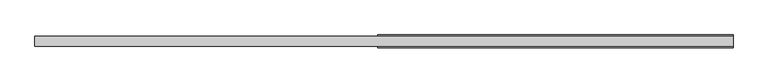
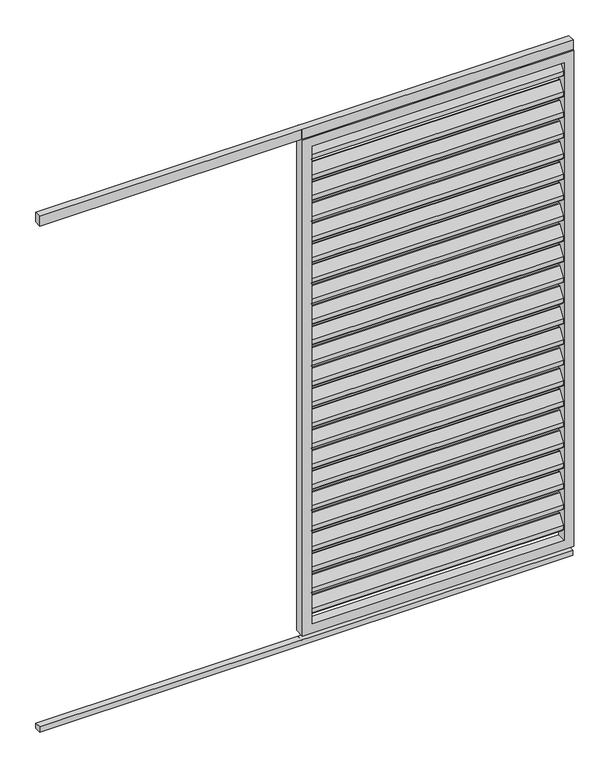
"""IFC4 building model written with IfcOpenShell, lengths in millimetres: proxy geometry, Renson_Camargue_Loggia_Paro_Aluminium : Renson_Camargue_Loggia_Paro_Aluminium."""

from ifc_helpers import new_model, si_unit, point, frame, frame_2d, origin, origin_with_axes, place, context, project, spatial, polyline, circle_curve, trimmed, segment, composite_curve, outline, extrude, source, transform, mapped, element, save


def generic_models_75aa1dad(model_context):
    return source(origin(), model_context, "Body", "SweptSolid", [
        extrude(outline(composite_curve([segment(trimmed(circle_curve(frame_2d((12.6675921, 2162.6587719)), 3.0), [point((10.1515804, 2164.292689))], [point((15.6675921, 2162.6587719))], False, "CARTESIAN"), True, "CONTINUOUS"), segment(polyline([(15.6675921, 2162.6587719), (15.6675921, 2144.2979873)]), True, "CONTINUOUS"), segment(trimmed(circle_curve(frame_2d((12.6675921, 2144.2979873)), 3.0), [point((15.6675921, 2144.2979873))], [point((15.1836038, 2142.6640702))], False, "CARTESIAN"), True, "CONTINUOUS"), segment(polyline([(15.1836038, 2142.6640702), (-8.8163962, 2105.707311)]), True, "CONTINUOUS"), segment(trimmed(circle_curve(frame_2d((-11.3324079, 2107.3412281)), 3.0), [point((-8.8163962, 2105.707311))], [point((-14.3324079, 2107.3412281))], False, "CARTESIAN"), True, "CONTINUOUS"), segment(polyline([(-14.3324079, 2107.3412281), (-14.3324079, 2126.5906532), (10.1515804, 2164.292689)]), True, "CONTINUOUS")], self_intersect=False)), frame((-520.0, 0.0, 0.0), z_axis=(1.0, 0.0, 0.0), x_axis=(0.0, 1.0, 0.0)), (0.0, 0.0, 1.0), 1040.0),
        extrude(outline(composite_curve([segment(trimmed(circle_curve(frame_2d((12.6675921, 2072.6587719)), 3.0), [point((10.1515804, 2074.292689))], [point((15.6675921, 2072.6587719))], False, "CARTESIAN"), True, "CONTINUOUS"), segment(polyline([(15.6675921, 2072.6587719), (15.6675921, 2054.2979873)]), True, "CONTINUOUS"), segment(trimmed(circle_curve(frame_2d((12.6675921, 2054.2979873)), 3.0), [point((15.6675921, 2054.2979873))], [point((15.1836038, 2052.6640702))], False, "CARTESIAN"), True, "CONTINUOUS"), segment(polyline([(15.1836038, 2052.6640702), (-8.8163962, 2015.707311)]), True, "CONTINUOUS"), segment(trimmed(circle_curve(frame_2d((-11.3324079, 2017.3412281)), 3.0), [point((-8.8163962, 2015.707311))], [point((-14.3324079, 2017.3412281))], False, "CARTESIAN"), True, "CONTINUOUS"), segment(polyline([(-14.3324079, 2017.3412281), (-14.3324079, 2036.5906532), (10.1515804, 2074.292689)]), True, "CONTINUOUS")], self_intersect=False)), frame((-520.0, 0.0, 0.0), z_axis=(1.0, 0.0, 0.0), x_axis=(0.0, 1.0, 0.0)), (0.0, 0.0, 1.0), 1040.0),
        extrude(outline(composite_curve([segment(trimmed(circle_curve(frame_2d((12.6675921, 1982.6587719)), 3.0), [point((10.1515804, 1984.292689))], [point((15.6675921, 1982.6587719))], False, "CARTESIAN"), True, "CONTINUOUS"), segment(polyline([(15.6675921, 1982.6587719), (15.6675921, 1964.2979873)]), True, "CONTINUOUS"), segment(trimmed(circle_curve(frame_2d((12.6675921, 1964.2979873)), 3.0), [point((15.6675921, 1964.2979873))], [point((15.1836038, 1962.6640702))], False, "CARTESIAN"), True, "CONTINUOUS"), segment(polyline([(15.1836038, 1962.6640702), (-8.8163962, 1925.707311)]), True, "CONTINUOUS"), segment(trimmed(circle_curve(frame_2d((-11.3324079, 1927.3412281)), 3.0), [point((-8.8163962, 1925.707311))], [point((-14.3324079, 1927.3412281))], False, "CARTESIAN"), True, "CONTINUOUS"), segment(polyline([(-14.3324079, 1927.3412281), (-14.3324079, 1946.5906532), (10.1515804, 1984.292689)]), True, "CONTINUOUS")], self_intersect=False)), frame((-520.0, 0.0, 0.0), z_axis=(1.0, 0.0, 0.0), x_axis=(0.0, 1.0, 0.0)), (0.0, 0.0, 1.0), 1040.0),
        extrude(outline(composite_curve([segment(trimmed(circle_curve(frame_2d((12.6675921, 1892.6587719)), 3.0), [point((10.1515804, 1894.292689))], [point((15.6675921, 1892.6587719))], False, "CARTESIAN"), True, "CONTINUOUS"), segment(polyline([(15.6675921, 1892.6587719), (15.6675921, 1874.2979873)]), True, "CONTINUOUS"), segment(trimmed(circle_curve(frame_2d((12.6675921, 1874.2979873)), 3.0), [point((15.6675921, 1874.2979873))], [point((15.1836038, 1872.6640702))], False, "CARTESIAN"), True, "CONTINUOUS"), segment(polyline([(15.1836038, 1872.6640702), (-8.8163962, 1835.707311)]), True, "CONTINUOUS"), segment(trimmed(circle_curve(frame_2d((-11.3324079, 1837.3412281)), 3.0), [point((-8.8163962, 1835.707311))], [point((-14.3324079, 1837.3412281))], False, "CARTESIAN"), True, "CONTINUOUS"), segment(polyline([(-14.3324079, 1837.3412281), (-14.3324079, 1856.5906532), (10.1515804, 1894.292689)]), True, "CONTINUOUS")], self_intersect=False)), frame((-520.0, 0.0, 0.0), z_axis=(1.0, 0.0, 0.0), x_axis=(0.0, 1.0, 0.0)), (0.0, 0.0, 1.0), 1040.0),
        extrude(outline(composite_curve([segment(trimmed(circle_curve(frame_2d((12.6675921, 1802.6587719)), 3.0), [point((10.1515804, 1804.292689))], [point((15.6675921, 1802.6587719))], False, "CARTESIAN"), True, "CONTINUOUS"), segment(polyline([(15.6675921, 1802.6587719), (15.6675921, 1784.2979873)]), True, "CONTINUOUS"), segment(trimmed(circle_curve(frame_2d((12.6675921, 1784.2979873)), 3.0), [point((15.6675921, 1784.2979873))], [point((15.1836038, 1782.6640702))], False, "CARTESIAN"), True, "CONTINUOUS"), segment(polyline([(15.1836038, 1782.6640702), (-8.8163962, 1745.707311)]), True, "CONTINUOUS"), segment(trimmed(circle_curve(frame_2d((-11.3324079, 1747.3412281)), 3.0), [point((-8.8163962, 1745.707311))], [point((-14.3324079, 1747.3412281))], False, "CARTESIAN"), True, "CONTINUOUS"), segment(polyline([(-14.3324079, 1747.3412281), (-14.3324079, 1766.5906532), (10.1515804, 1804.292689)]), True, "CONTINUOUS")], self_intersect=False)), frame((-520.0, 0.0, 0.0), z_axis=(1.0, 0.0, 0.0), x_axis=(0.0, 1.0, 0.0)), (0.0, 0.0, 1.0), 1040.0),
        extrude(outline(composite_curve([segment(trimmed(circle_curve(frame_2d((12.6675921, 1712.6587719)), 3.0), [point((10.1515804, 1714.292689))], [point((15.6675921, 1712.6587719))], False, "CARTESIAN"), True, "CONTINUOUS"), segment(polyline([(15.6675921, 1712.6587719), (15.6675921, 1694.2979873)]), True, "CONTINUOUS"), segment(trimmed(circle_curve(frame_2d((12.6675921, 1694.2979873)), 3.0), [point((15.6675921, 1694.2979873))], [point((15.1836038, 1692.6640702))], False, "CARTESIAN"), True, "CONTINUOUS"), segment(polyline([(15.1836038, 1692.6640702), (-8.8163962, 1655.707311)]), True, "CONTINUOUS"), segment(trimmed(circle_curve(frame_2d((-11.3324079, 1657.3412281)), 3.0), [point((-8.8163962, 1655.707311))], [point((-14.3324079, 1657.3412281))], False, "CARTESIAN"), True, "CONTINUOUS"), segment(polyline([(-14.3324079, 1657.3412281), (-14.3324079, 1676.5906532), (10.1515804, 1714.292689)]), True, "CONTINUOUS")], self_intersect=False)), frame((-520.0, 0.0, 0.0), z_axis=(1.0, 0.0, 0.0), x_axis=(0.0, 1.0, 0.0)), (0.0, 0.0, 1.0), 1040.0),
        extrude(outline(composite_curve([segment(trimmed(circle_curve(frame_2d((12.6675921, 1622.6587719)), 3.0), [point((10.1515804, 1624.292689))], [point((15.6675921, 1622.6587719))], False, "CARTESIAN"), True, "CONTINUOUS"), segment(polyline([(15.6675921, 1622.6587719), (15.6675921, 1604.2979873)]), True, "CONTINUOUS"), segment(trimmed(circle_curve(frame_2d((12.6675921, 1604.2979873)), 3.0), [point((15.6675921, 1604.2979873))], [point((15.1836038, 1602.6640702))], False, "CARTESIAN"), True, "CONTINUOUS"), segment(polyline([(15.1836038, 1602.6640702), (-8.8163962, 1565.707311)]), True, "CONTINUOUS"), segment(trimmed(circle_curve(frame_2d((-11.3324079, 1567.3412281)), 3.0), [point((-8.8163962, 1565.707311))], [point((-14.3324079, 1567.3412281))], False, "CARTESIAN"), True, "CONTINUOUS"), segment(polyline([(-14.3324079, 1567.3412281), (-14.3324079, 1586.5906532), (10.1515804, 1624.292689)]), True, "CONTINUOUS")], self_intersect=False)), frame((-520.0, 0.0, 0.0), z_axis=(1.0, 0.0, 0.0), x_axis=(0.0, 1.0, 0.0)), (0.0, 0.0, 1.0), 1040.0),
        extrude(outline(composite_curve([segment(trimmed(circle_curve(frame_2d((12.6675921, 1532.6587719)), 3.0), [point((10.1515804, 1534.292689))], [point((15.6675921, 1532.6587719))], False, "CARTESIAN"), True, "CONTINUOUS"), segment(polyline([(15.6675921, 1532.6587719), (15.6675921, 1514.2979873)]), True, "CONTINUOUS"), segment(trimmed(circle_curve(frame_2d((12.6675921, 1514.2979873)), 3.0), [point((15.6675921, 1514.2979873))], [point((15.1836038, 1512.6640702))], False, "CARTESIAN"), True, "CONTINUOUS"), segment(polyline([(15.1836038, 1512.6640702), (-8.8163962, 1475.707311)]), True, "CONTINUOUS"), segment(trimmed(circle_curve(frame_2d((-11.3324079, 1477.3412281)), 3.0), [point((-8.8163962, 1475.707311))], [point((-14.3324079, 1477.3412281))], False, "CARTESIAN"), True, "CONTINUOUS"), segment(polyline([(-14.3324079, 1477.3412281), (-14.3324079, 1496.5906532), (10.1515804, 1534.292689)]), True, "CONTINUOUS")], self_intersect=False)), frame((-520.0, 0.0, 0.0), z_axis=(1.0, 0.0, 0.0), x_axis=(0.0, 1.0, 0.0)), (0.0, 0.0, 1.0), 1040.0),
        extrude(outline(composite_curve([segment(trimmed(circle_curve(frame_2d((12.6675921, 1442.6587719)), 3.0), [point((10.1515804, 1444.292689))], [point((15.6675921, 1442.6587719))], False, "CARTESIAN"), True, "CONTINUOUS"), segment(polyline([(15.6675921, 1442.6587719), (15.6675921, 1424.2979873)]), True, "CONTINUOUS"), segment(trimmed(circle_curve(frame_2d((12.6675921, 1424.2979873)), 3.0), [point((15.6675921, 1424.2979873))], [point((15.1836038, 1422.6640702))], False, "CARTESIAN"), True, "CONTINUOUS"), segment(polyline([(15.1836038, 1422.6640702), (-8.8163962, 1385.707311)]), True, "CONTINUOUS"), segment(trimmed(circle_curve(frame_2d((-11.3324079, 1387.3412281)), 3.0), [point((-8.8163962, 1385.707311))], [point((-14.3324079, 1387.3412281))], False, "CARTESIAN"), True, "CONTINUOUS"), segment(polyline([(-14.3324079, 1387.3412281), (-14.3324079, 1406.5906532), (10.1515804, 1444.292689)]), True, "CONTINUOUS")], self_intersect=False)), frame((-520.0, 0.0, 0.0), z_axis=(1.0, 0.0, 0.0), x_axis=(0.0, 1.0, 0.0)), (0.0, 0.0, 1.0), 1040.0),
        extrude(outline(composite_curve([segment(trimmed(circle_curve(frame_2d((12.6675921, 1352.6587719)), 3.0), [point((10.1515804, 1354.292689))], [point((15.6675921, 1352.6587719))], False, "CARTESIAN"), True, "CONTINUOUS"), segment(polyline([(15.6675921, 1352.6587719), (15.6675921, 1334.2979873)]), True, "CONTINUOUS"), segment(trimmed(circle_curve(frame_2d((12.6675921, 1334.2979873)), 3.0), [point((15.6675921, 1334.2979873))], [point((15.1836038, 1332.6640702))], False, "CARTESIAN"), True, "CONTINUOUS"), segment(polyline([(15.1836038, 1332.6640702), (-8.8163962, 1295.707311)]), True, "CONTINUOUS"), segment(trimmed(circle_curve(frame_2d((-11.3324079, 1297.3412281)), 3.0), [point((-8.8163962, 1295.707311))], [point((-14.3324079, 1297.3412281))], False, "CARTESIAN"), True, "CONTINUOUS"), segment(polyline([(-14.3324079, 1297.3412281), (-14.3324079, 1316.5906532), (10.1515804, 1354.292689)]), True, "CONTINUOUS")], self_intersect=False)), frame((-520.0, 0.0, 0.0), z_axis=(1.0, 0.0, 0.0), x_axis=(0.0, 1.0, 0.0)), (0.0, 0.0, 1.0), 1040.0),
        extrude(outline(composite_curve([segment(trimmed(circle_curve(frame_2d((12.6675921, 1262.6587719)), 3.0), [point((10.1515804, 1264.292689))], [point((15.6675921, 1262.6587719))], False, "CARTESIAN"), True, "CONTINUOUS"), segment(polyline([(15.6675921, 1262.6587719), (15.6675921, 1244.2979873)]), True, "CONTINUOUS"), segment(trimmed(circle_curve(frame_2d((12.6675921, 1244.2979873)), 3.0), [point((15.6675921, 1244.2979873))], [point((15.1836038, 1242.6640702))], False, "CARTESIAN"), True, "CONTINUOUS"), segment(polyline([(15.1836038, 1242.6640702), (-8.8163962, 1205.707311)]), True, "CONTINUOUS"), segment(trimmed(circle_curve(frame_2d((-11.3324079, 1207.3412281)), 3.0), [point((-8.8163962, 1205.707311))], [point((-14.3324079, 1207.3412281))], False, "CARTESIAN"), True, "CONTINUOUS"), segment(polyline([(-14.3324079, 1207.3412281), (-14.3324079, 1226.5906532), (10.1515804, 1264.292689)]), True, "CONTINUOUS")], self_intersect=False)), frame((-520.0, 0.0, 0.0), z_axis=(1.0, 0.0, 0.0), x_axis=(0.0, 1.0, 0.0)), (0.0, 0.0, 1.0), 1040.0),
        extrude(outline(composite_curve([segment(trimmed(circle_curve(frame_2d((12.6675921, 1172.6587719)), 3.0), [point((10.1515804, 1174.292689))], [point((15.6675921, 1172.6587719))], False, "CARTESIAN"), True, "CONTINUOUS"), segment(polyline([(15.6675921, 1172.6587719), (15.6675921, 1154.2979873)]), True, "CONTINUOUS"), segment(trimmed(circle_curve(frame_2d((12.6675921, 1154.2979873)), 3.0), [point((15.6675921, 1154.2979873))], [point((15.1836038, 1152.6640702))], False, "CARTESIAN"), True, "CONTINUOUS"), segment(polyline([(15.1836038, 1152.6640702), (-8.8163962, 1115.707311)]), True, "CONTINUOUS"), segment(trimmed(circle_curve(frame_2d((-11.3324079, 1117.3412281)), 3.0), [point((-8.8163962, 1115.707311))], [point((-14.3324079, 1117.3412281))], False, "CARTESIAN"), True, "CONTINUOUS"), segment(polyline([(-14.3324079, 1117.3412281), (-14.3324079, 1136.5906532), (10.1515804, 1174.292689)]), True, "CONTINUOUS")], self_intersect=False)), frame((-520.0, 0.0, 0.0), z_axis=(1.0, 0.0, 0.0), x_axis=(0.0, 1.0, 0.0)), (0.0, 0.0, 1.0), 1040.0),
        extrude(outline(composite_curve([segment(trimmed(circle_curve(frame_2d((12.6675921, 1082.6587719)), 3.0), [point((10.1515804, 1084.292689))], [point((15.6675921, 1082.6587719))], False, "CARTESIAN"), True, "CONTINUOUS"), segment(polyline([(15.6675921, 1082.6587719), (15.6675921, 1064.2979873)]), True, "CONTINUOUS"), segment(trimmed(circle_curve(frame_2d((12.6675921, 1064.2979873)), 3.0), [point((15.6675921, 1064.2979873))], [point((15.1836038, 1062.6640702))], False, "CARTESIAN"), True, "CONTINUOUS"), segment(polyline([(15.1836038, 1062.6640702), (-8.8163962, 1025.707311)]), True, "CONTINUOUS"), segment(trimmed(circle_curve(frame_2d((-11.3324079, 1027.3412281)), 3.0), [point((-8.8163962, 1025.707311))], [point((-14.3324079, 1027.3412281))], False, "CARTESIAN"), True, "CONTINUOUS"), segment(polyline([(-14.3324079, 1027.3412281), (-14.3324079, 1046.5906532), (10.1515804, 1084.292689)]), True, "CONTINUOUS")], self_intersect=False)), frame((-520.0, 0.0, 0.0), z_axis=(1.0, 0.0, 0.0), x_axis=(0.0, 1.0, 0.0)), (0.0, 0.0, 1.0), 1040.0),
        extrude(outline(composite_curve([segment(trimmed(circle_curve(frame_2d((12.6675921, 992.6587719)), 3.0), [point((10.1515804, 994.292689))], [point((15.6675921, 992.6587719))], False, "CARTESIAN"), True, "CONTINUOUS"), segment(polyline([(15.6675921, 992.6587719), (15.6675921, 974.2979873)]), True, "CONTINUOUS"), segment(trimmed(circle_curve(frame_2d((12.6675921, 974.2979873)), 3.0), [point((15.6675921, 974.2979873))], [point((15.1836038, 972.6640702))], False, "CARTESIAN"), True, "CONTINUOUS"), segment(polyline([(15.1836038, 972.6640702), (-8.8163962, 935.707311)]), True, "CONTINUOUS"), segment(trimmed(circle_curve(frame_2d((-11.3324079, 937.3412281)), 3.0), [point((-8.8163962, 935.707311))], [point((-14.3324079, 937.3412281))], False, "CARTESIAN"), True, "CONTINUOUS"), segment(polyline([(-14.3324079, 937.3412281), (-14.3324079, 956.5906532), (10.1515804, 994.292689)]), True, "CONTINUOUS")], self_intersect=False)), frame((-520.0, 0.0, 0.0), z_axis=(1.0, 0.0, 0.0), x_axis=(0.0, 1.0, 0.0)), (0.0, 0.0, 1.0), 1040.0),
        extrude(outline(composite_curve([segment(trimmed(circle_curve(frame_2d((12.6675921, 902.6587719)), 3.0), [point((10.1515804, 904.292689))], [point((15.6675921, 902.6587719))], False, "CARTESIAN"), True, "CONTINUOUS"), segment(polyline([(15.6675921, 902.6587719), (15.6675921, 884.2979873)]), True, "CONTINUOUS"), segment(trimmed(circle_curve(frame_2d((12.6675921, 884.2979873)), 3.0), [point((15.6675921, 884.2979873))], [point((15.1836038, 882.6640702))], False, "CARTESIAN"), True, "CONTINUOUS"), segment(polyline([(15.1836038, 882.6640702), (-8.8163962, 845.707311)]), True, "CONTINUOUS"), segment(trimmed(circle_curve(frame_2d((-11.3324079, 847.3412281)), 3.0), [point((-8.8163962, 845.707311))], [point((-14.3324079, 847.3412281))], False, "CARTESIAN"), True, "CONTINUOUS"), segment(polyline([(-14.3324079, 847.3412281), (-14.3324079, 866.5906532), (10.1515804, 904.292689)]), True, "CONTINUOUS")], self_intersect=False)), frame((-520.0, 0.0, 0.0), z_axis=(1.0, 0.0, 0.0), x_axis=(0.0, 1.0, 0.0)), (0.0, 0.0, 1.0), 1040.0),
        extrude(outline(composite_curve([segment(trimmed(circle_curve(frame_2d((12.6675921, 812.6587719)), 3.0), [point((10.1515804, 814.292689))], [point((15.6675921, 812.6587719))], False, "CARTESIAN"), True, "CONTINUOUS"), segment(polyline([(15.6675921, 812.6587719), (15.6675921, 794.2979873)]), True, "CONTINUOUS"), segment(trimmed(circle_curve(frame_2d((12.6675921, 794.2979873)), 3.0), [point((15.6675921, 794.2979873))], [point((15.1836038, 792.6640702))], False, "CARTESIAN"), True, "CONTINUOUS"), segment(polyline([(15.1836038, 792.6640702), (-8.8163962, 755.707311)]), True, "CONTINUOUS"), segment(trimmed(circle_curve(frame_2d((-11.3324079, 757.3412281)), 3.0), [point((-8.8163962, 755.707311))], [point((-14.3324079, 757.3412281))], False, "CARTESIAN"), True, "CONTINUOUS"), segment(polyline([(-14.3324079, 757.3412281), (-14.3324079, 776.5906532), (10.1515804, 814.292689)]), True, "CONTINUOUS")], self_intersect=False)), frame((-520.0, 0.0, 0.0), z_axis=(1.0, 0.0, 0.0), x_axis=(0.0, 1.0, 0.0)), (0.0, 0.0, 1.0), 1040.0),
        extrude(outline(composite_curve([segment(trimmed(circle_curve(frame_2d((12.6675921, 722.6587719)), 3.0), [point((10.1515804, 724.292689))], [point((15.6675921, 722.6587719))], False, "CARTESIAN"), True, "CONTINUOUS"), segment(polyline([(15.6675921, 722.6587719), (15.6675921, 704.2979873)]), True, "CONTINUOUS"), segment(trimmed(circle_curve(frame_2d((12.6675921, 704.2979873)), 3.0), [point((15.6675921, 704.2979873))], [point((15.1836038, 702.6640702))], False, "CARTESIAN"), True, "CONTINUOUS"), segment(polyline([(15.1836038, 702.6640702), (-8.8163962, 665.707311)]), True, "CONTINUOUS"), segment(trimmed(circle_curve(frame_2d((-11.3324079, 667.3412281)), 3.0), [point((-8.8163962, 665.707311))], [point((-14.3324079, 667.3412281))], False, "CARTESIAN"), True, "CONTINUOUS"), segment(polyline([(-14.3324079, 667.3412281), (-14.3324079, 686.5906532), (10.1515804, 724.292689)]), True, "CONTINUOUS")], self_intersect=False)), frame((-520.0, 0.0, 0.0), z_axis=(1.0, 0.0, 0.0), x_axis=(0.0, 1.0, 0.0)), (0.0, 0.0, 1.0), 1040.0),
        extrude(outline(composite_curve([segment(trimmed(circle_curve(frame_2d((12.6675921, 632.6587719)), 3.0), [point((10.1515804, 634.292689))], [point((15.6675921, 632.6587719))], False, "CARTESIAN"), True, "CONTINUOUS"), segment(polyline([(15.6675921, 632.6587719), (15.6675921, 614.2979873)]), True, "CONTINUOUS"), segment(trimmed(circle_curve(frame_2d((12.6675921, 614.2979873)), 3.0), [point((15.6675921, 614.2979873))], [point((15.1836038, 612.6640702))], False, "CARTESIAN"), True, "CONTINUOUS"), segment(polyline([(15.1836038, 612.6640702), (-8.8163962, 575.707311)]), True, "CONTINUOUS"), segment(trimmed(circle_curve(frame_2d((-11.3324079, 577.3412281)), 3.0), [point((-8.8163962, 575.707311))], [point((-14.3324079, 577.3412281))], False, "CARTESIAN"), True, "CONTINUOUS"), segment(polyline([(-14.3324079, 577.3412281), (-14.3324079, 596.5906532), (10.1515804, 634.292689)]), True, "CONTINUOUS")], self_intersect=False)), frame((-520.0, 0.0, 0.0), z_axis=(1.0, 0.0, 0.0), x_axis=(0.0, 1.0, 0.0)), (0.0, 0.0, 1.0), 1040.0),
        extrude(outline(composite_curve([segment(trimmed(circle_curve(frame_2d((12.6675921, 542.6587719)), 3.0), [point((10.1515804, 544.292689))], [point((15.6675921, 542.6587719))], False, "CARTESIAN"), True, "CONTINUOUS"), segment(polyline([(15.6675921, 542.6587719), (15.6675921, 524.2979873)]), True, "CONTINUOUS"), segment(trimmed(circle_curve(frame_2d((12.6675921, 524.2979873)), 3.0), [point((15.6675921, 524.2979873))], [point((15.1836038, 522.6640702))], False, "CARTESIAN"), True, "CONTINUOUS"), segment(polyline([(15.1836038, 522.6640702), (-8.8163962, 485.707311)]), True, "CONTINUOUS"), segment(trimmed(circle_curve(frame_2d((-11.3324079, 487.3412281)), 3.0), [point((-8.8163962, 485.707311))], [point((-14.3324079, 487.3412281))], False, "CARTESIAN"), True, "CONTINUOUS"), segment(polyline([(-14.3324079, 487.3412281), (-14.3324079, 506.5906532), (10.1515804, 544.292689)]), True, "CONTINUOUS")], self_intersect=False)), frame((-520.0, 0.0, 0.0), z_axis=(1.0, 0.0, 0.0), x_axis=(0.0, 1.0, 0.0)), (0.0, 0.0, 1.0), 1040.0),
        extrude(outline(composite_curve([segment(trimmed(circle_curve(frame_2d((12.6675921, 452.6587719)), 3.0), [point((10.1515804, 454.292689))], [point((15.6675921, 452.6587719))], False, "CARTESIAN"), True, "CONTINUOUS"), segment(polyline([(15.6675921, 452.6587719), (15.6675921, 434.2979873)]), True, "CONTINUOUS"), segment(trimmed(circle_curve(frame_2d((12.6675921, 434.2979873)), 3.0), [point((15.6675921, 434.2979873))], [point((15.1836038, 432.6640702))], False, "CARTESIAN"), True, "CONTINUOUS"), segment(polyline([(15.1836038, 432.6640702), (-8.8163962, 395.707311)]), True, "CONTINUOUS"), segment(trimmed(circle_curve(frame_2d((-11.3324079, 397.3412281)), 3.0), [point((-8.8163962, 395.707311))], [point((-14.3324079, 397.3412281))], False, "CARTESIAN"), True, "CONTINUOUS"), segment(polyline([(-14.3324079, 397.3412281), (-14.3324079, 416.5906532), (10.1515804, 454.292689)]), True, "CONTINUOUS")], self_intersect=False)), frame((-520.0, 0.0, 0.0), z_axis=(1.0, 0.0, 0.0), x_axis=(0.0, 1.0, 0.0)), (0.0, 0.0, 1.0), 1040.0),
        extrude(outline(composite_curve([segment(trimmed(circle_curve(frame_2d((12.6675921, 362.6587719)), 3.0), [point((10.1515804, 364.292689))], [point((15.6675921, 362.6587719))], False, "CARTESIAN"), True, "CONTINUOUS"), segment(polyline([(15.6675921, 362.6587719), (15.6675921, 344.2979873)]), True, "CONTINUOUS"), segment(trimmed(circle_curve(frame_2d((12.6675921, 344.2979873)), 3.0), [point((15.6675921, 344.2979873))], [point((15.1836038, 342.6640702))], False, "CARTESIAN"), True, "CONTINUOUS"), segment(polyline([(15.1836038, 342.6640702), (-8.8163962, 305.707311)]), True, "CONTINUOUS"), segment(trimmed(circle_curve(frame_2d((-11.3324079, 307.3412281)), 3.0), [point((-8.8163962, 305.707311))], [point((-14.3324079, 307.3412281))], False, "CARTESIAN"), True, "CONTINUOUS"), segment(polyline([(-14.3324079, 307.3412281), (-14.3324079, 326.5906532), (10.1515804, 364.292689)]), True, "CONTINUOUS")], self_intersect=False)), frame((-520.0, 0.0, 0.0), z_axis=(1.0, 0.0, 0.0), x_axis=(0.0, 1.0, 0.0)), (0.0, 0.0, 1.0), 1040.0),
        extrude(outline(composite_curve([segment(trimmed(circle_curve(frame_2d((12.6675921, 272.6587719)), 3.0), [point((10.1515804, 274.292689))], [point((15.6675921, 272.6587719))], False, "CARTESIAN"), True, "CONTINUOUS"), segment(polyline([(15.6675921, 272.6587719), (15.6675921, 254.2979873)]), True, "CONTINUOUS"), segment(trimmed(circle_curve(frame_2d((12.6675921, 254.2979873)), 3.0), [point((15.6675921, 254.2979873))], [point((15.1836038, 252.6640702))], False, "CARTESIAN"), True, "CONTINUOUS"), segment(polyline([(15.1836038, 252.6640702), (-8.8163962, 215.707311)]), True, "CONTINUOUS"), segment(trimmed(circle_curve(frame_2d((-11.3324079, 217.3412281)), 3.0), [point((-8.8163962, 215.707311))], [point((-14.3324079, 217.3412281))], False, "CARTESIAN"), True, "CONTINUOUS"), segment(polyline([(-14.3324079, 217.3412281), (-14.3324079, 236.5906532), (10.1515804, 274.292689)]), True, "CONTINUOUS")], self_intersect=False)), frame((-520.0, 0.0, 0.0), z_axis=(1.0, 0.0, 0.0), x_axis=(0.0, 1.0, 0.0)), (0.0, 0.0, 1.0), 1040.0),
        extrude(outline(composite_curve([segment(trimmed(circle_curve(frame_2d((12.6675921, 182.6587719)), 3.0), [point((10.1515804, 184.292689))], [point((15.6675921, 182.6587719))], False, "CARTESIAN"), True, "CONTINUOUS"), segment(polyline([(15.6675921, 182.6587719), (15.6675921, 164.2979873)]), True, "CONTINUOUS"), segment(trimmed(circle_curve(frame_2d((12.6675921, 164.2979873)), 3.0), [point((15.6675921, 164.2979873))], [point((15.1836038, 162.6640702))], False, "CARTESIAN"), True, "CONTINUOUS"), segment(polyline([(15.1836038, 162.6640702), (-8.8163962, 125.707311)]), True, "CONTINUOUS"), segment(trimmed(circle_curve(frame_2d((-11.3324079, 127.3412281)), 3.0), [point((-8.8163962, 125.707311))], [point((-14.3324079, 127.3412281))], False, "CARTESIAN"), True, "CONTINUOUS"), segment(polyline([(-14.3324079, 127.3412281), (-14.3324079, 146.5906532), (10.1515804, 184.292689)]), True, "CONTINUOUS")], self_intersect=False)), frame((-520.0, 0.0, 0.0), z_axis=(1.0, 0.0, 0.0), x_axis=(0.0, 1.0, 0.0)), (0.0, 0.0, 1.0), 1040.0),
        extrude(outline(polyline([(560.0, 15.0), (560.0, -15.0), (-1640.0, -15.0), (-1640.0, 15.0), (560.0, 15.0)])), frame((0.0, 0.0, 2207.7138321), z_axis=(0.0, 0.0, 1.0), x_axis=(1.0, 0.0, 0.0)), (0.0, 0.0, 1.0), 42.2861679),
        extrude(outline(polyline([(-559.0, 15.0), (-559.0, -15.0), (-560.0, -15.0), (-560.0, 15.0), (-559.0, 15.0)])), frame((0.0, 0.0, 2207.7138321), z_axis=(0.0, 0.0, 1.0), x_axis=(1.0, 0.0, 0.0)), (0.0, 0.0, 1.0), 42.2861679),
        extrude(outline(polyline([(560.0, -13.0), (-1640.0, -13.0), (-1640.0, 14.0), (560.0, 14.0), (560.0, -13.0)])), origin_with_axes(), (0.0, 0.0, 1.0), 23.0),
        extrude(outline(polyline([(-559.0, -13.0), (-560.0, -13.0), (-560.0, 14.0), (-559.0, 14.0), (-559.0, -13.0)])), origin_with_axes(), (0.0, 0.0, 1.0), 23.0),
        extrude(outline(polyline([(2207.7138321, -560.0), (45.0, -560.0), (45.0, 560.0), (2207.7138321, 560.0), (2207.7138321, -560.0)]), holes=[polyline([(2167.7138321, 520.0), (85.0, 520.0), (85.0, -520.0), (2167.7138321, -520.0), (2167.7138321, 520.0)])]), frame((0.0, -20.0, 0.0), z_axis=(0.0, 1.0, 0.0), x_axis=(0.0, 0.0, 1.0)), (0.0, 0.0, 1.0), 40.0),
    ])


if __name__ == "__main__":
    model = new_model("IFC4")
    model_context = context("Model", 3, world=origin())
    ifc_project = project(units=[si_unit("LENGTHUNIT", "METRE", prefix="MILLI")], contexts=[model_context])
    site = spatial("IfcSite", under=ifc_project)
    building = spatial("IfcBuilding", under=site)
    placement = place(None, origin())
    generic_models_shape = generic_models_75aa1dad(model_context)
    element("IfcBuildingElementProxy", 1, Name="Renson_Camargue_Loggia_Paro_Aluminium : Renson_Camargue_Loggia_Paro_Aluminium", ObjectType="Renson_Camargue_Loggia_Paro_Aluminium : Renson_Camargue_Loggia_Paro_Aluminium", at=placement, inside=building, context=model_context, shape_type="MappedRepresentation", body=[
        mapped(generic_models_shape, transform((0.0, 0.0, 0.0), x_axis=(1.0, 0.0, 0.0), y_axis=(0.0, 1.0, 0.0), z_axis=(0.0, 0.0, 1.0))),
    ])
    save(model, "model.ifc")
